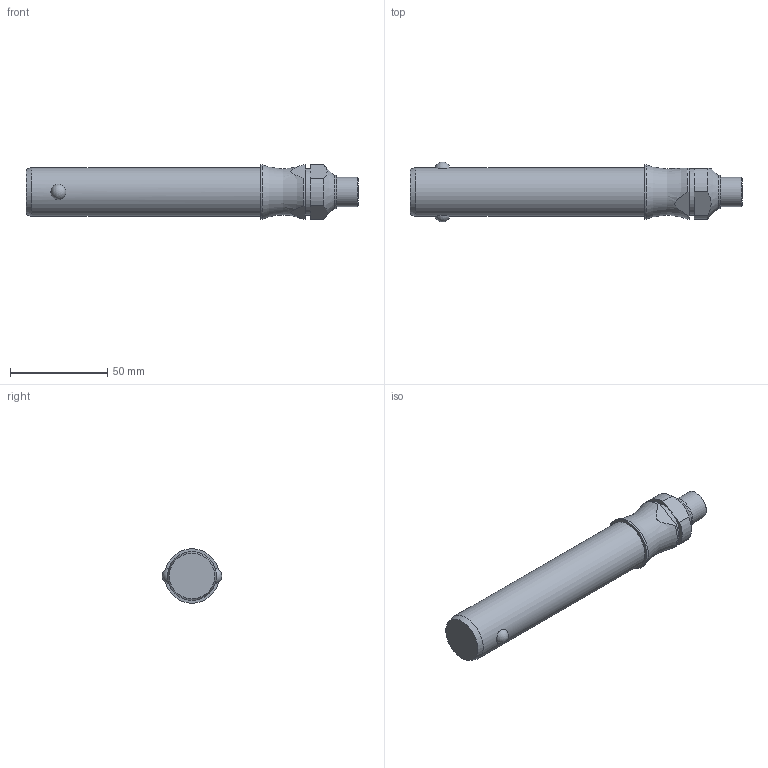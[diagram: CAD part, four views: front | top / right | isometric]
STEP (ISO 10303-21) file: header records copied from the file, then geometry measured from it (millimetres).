
FILE_DESCRIPTION( ( 'STEP AP203' ), '1' );
FILE_NAME( 'C:/Temp/Ganter_Step_05_03_2020/data/3_1/gn113_3/Stainless Steel-Ball lock pin GN 113.3-25-100 (deactivated).stp', '2020-03-12T08:19:11', ( 'License CC BY-ND 4.0' ), ( 'CADENAS' ), ' ', 'PARTsolutions', ' ' );
FILE_SCHEMA( ( 'CONFIG_CONTROL_DESIGN' ) );
Length unit declared in the file: millimetre
Products named in the file (1): _Stainless Steel-Ball lock pin GN 113.3-25-100 (deactivated)
Bounding box: 170.6 x 30.75 x 28 mm (x, y, z)
Volume: 80026.2 mm3; surface area: 14249.9 mm2
Topology: 1 solids, 1 shells, 29 faces, 62 edges, 40 vertices
Faces by surface type: plane 11, cylinder 11, cone 4, sphere 2, torus 1
Full cylindrical faces by diameter (mm): 15 x1, 17 x1, 24 x1, 25 x1, 28 x1
Entity records: 1006 total; most frequent: CARTESIAN_POINT 376, DIRECTION 126, ORIENTED_EDGE 100, AXIS2_PLACEMENT_3D 54, EDGE_CURVE 50, EDGE_LOOP 44, VERTEX_POINT 38, FACE_OUTER_BOUND 35
